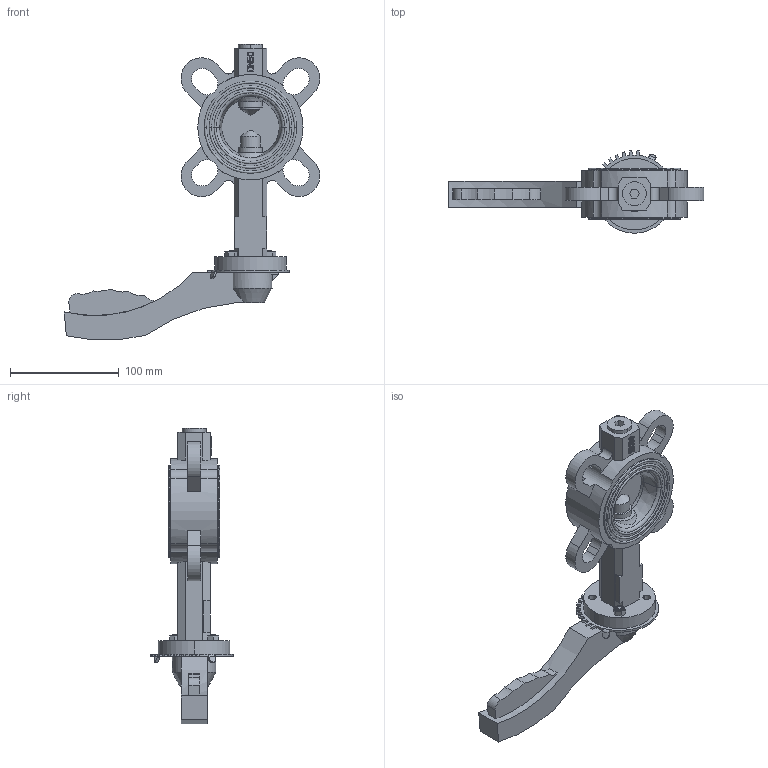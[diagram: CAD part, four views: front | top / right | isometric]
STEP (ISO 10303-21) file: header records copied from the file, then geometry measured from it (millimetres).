
FILE_DESCRIPTION((''),'2;1');
FILE_NAME('SB_RUCHKA_ASM','2023-12-20T',('USER'),(''),'PRO/ENGINEER BY PARAMETRIC TECHNOLOGY CORPORATION, 2011220','PRO/ENGINEER BY PARAMETRIC TECHNOLOGY CORPORATION, 2011220','');
FILE_SCHEMA(('CONFIG_CONTROL_DESIGN'));
Length unit declared in the file: millimetre
Products named in the file (18): KORPUS; REZ; DISK; SHTIR_1; ZAGLUSHKA; O-RING; SHTIR_2; SHAIBA_RAZREZ; SHAIBA; KOLCO_22_GOST13943; VTULKA; MANZET_REZ; SB_ASM; PLASTINA; V-17475A-M6-20; RUCHKA; G-5915-M6; SB_RUCHKA_ASM
Assembly tree (25 placements, depth 3):
  SB_RUCHKA_ASM
    SB_ASM
      KORPUS
      REZ
      DISK
      SHTIR_1
      ZAGLUSHKA
      O-RING  x2
      SHTIR_2
      SHAIBA_RAZREZ
      SHAIBA  x2
      KOLCO_22_GOST13943
      VTULKA  x5
      MANZET_REZ
    PLASTINA
    V-17475A-M6-20  x2
    RUCHKA
    G-5915-M6  x2
Bounding box: 235.2 x 75.93 x 272.36 mm (x, y, z)
Volume: 543243.1 mm3; surface area: 174121.2 mm2
Topology: 24 solids, 30 shells, 687 faces, 1791 edges, 1172 vertices
Faces by surface type: plane 378, cylinder 210, cone 63, torus 32, bspline 4
Entity records: 20443 total; most frequent: CARTESIAN_POINT 4177, DIRECTION 3455, ORIENTED_EDGE 3244, EDGE_CURVE 1633, AXIS2_PLACEMENT_3D 1219, VERTEX_POINT 1072, VECTOR 1017, LINE 1017
